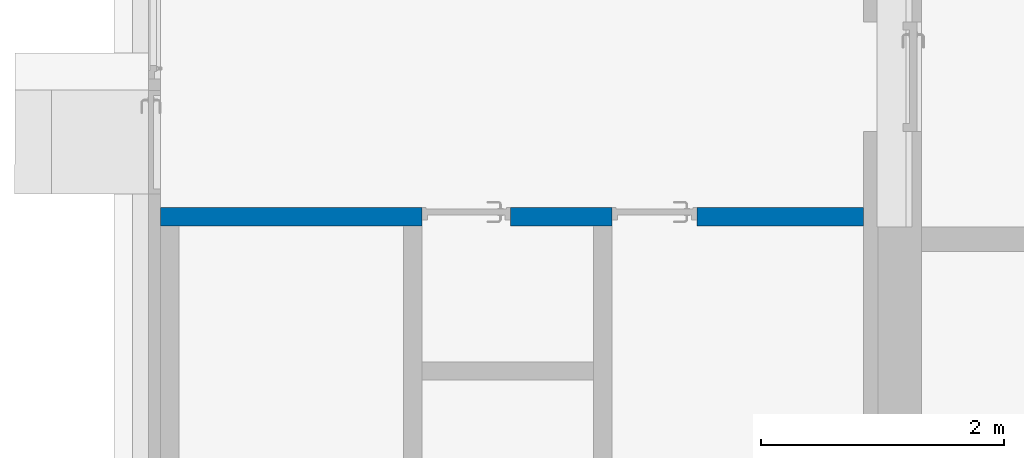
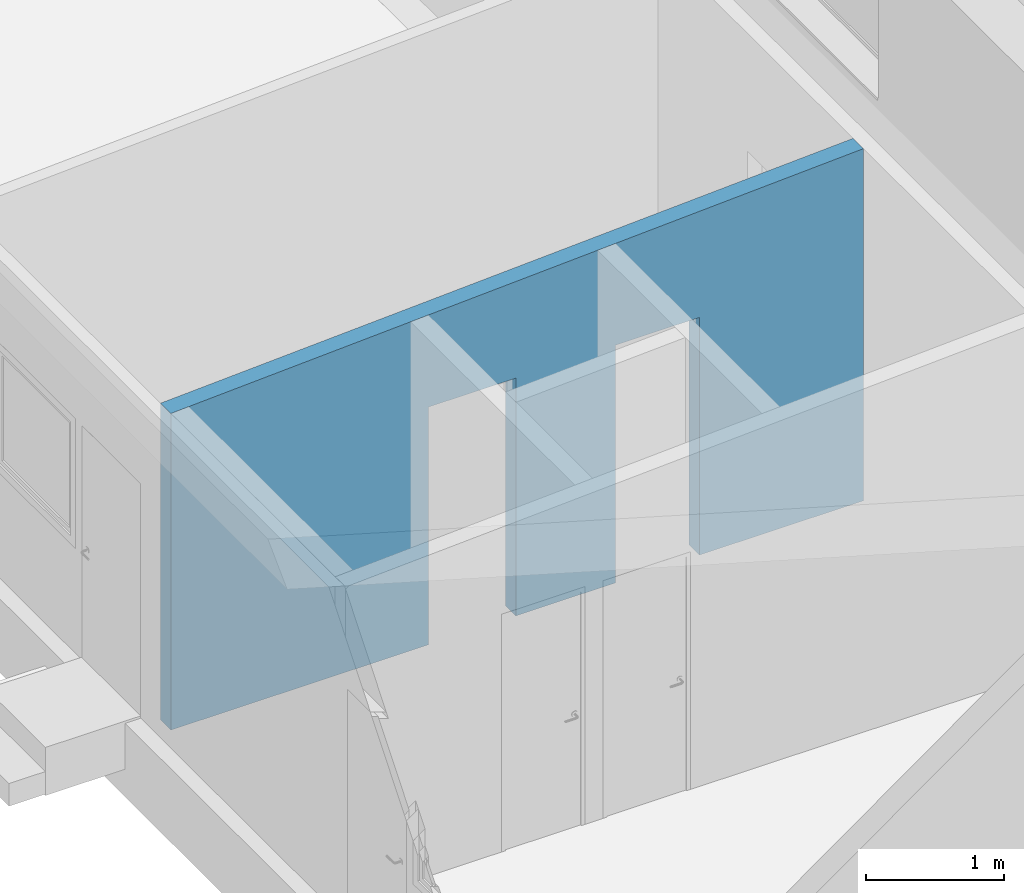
# One storey, part 151 of 301: 1 wall, 2 openings.
"""IFC2X3 building model written with IfcOpenShell, lengths in millimetres."""

from ifc_helpers import new_model, entity, si_unit, converted_unit, derived_unit, money_unit, direction, frame, origin_with_axes, place, context, subcontext, project, spatial, faceted_brep, material, type_object, element, save


model = new_model("IFC2X3")

# Units and contexts
model_context = context("Model", 3, precision=0.01, world=origin_with_axes(), true_north=direction((0.0, 1.0)))
body_context = subcontext(model_context, "Body", "Model", "MODEL_VIEW")
ifc_project = project(units=[si_unit("LENGTHUNIT", "METRE", prefix="MILLI"), si_unit("AREAUNIT", "SQUARE_METRE"), si_unit("VOLUMEUNIT", "CUBIC_METRE"), converted_unit("PLANEANGLEUNIT", "DEGREE", entity("IfcPlaneAngleMeasure", 0.0174532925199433), si_unit("PLANEANGLEUNIT", "RADIAN"), dimensions=[0, 0, 0, 0, 0, 0, 0]), money_unit("EUR"), converted_unit("TIMEUNIT", "Year", entity("IfcTimeMeasure", 31557600.0), si_unit("TIMEUNIT", "SECOND"), dimensions=[0, 0, 1, 0, 0, 0, 0]), si_unit("MASSUNIT", "GRAM", prefix="KILO"), si_unit("THERMODYNAMICTEMPERATUREUNIT", "DEGREE_CELSIUS"), si_unit("LUMINOUSINTENSITYUNIT", "LUMEN"), si_unit("ENERGYUNIT", "JOULE", prefix="MEGA"), derived_unit("THERMALCONDUCTANCEUNIT", [(si_unit("POWERUNIT", "WATT"), 1), (si_unit("LENGTHUNIT", "METRE"), -1), (si_unit("THERMODYNAMICTEMPERATUREUNIT", "KELVIN"), -1)]), derived_unit("SPECIFICHEATCAPACITYUNIT", [(si_unit("ENERGYUNIT", "JOULE"), 1), (si_unit("MASSUNIT", "GRAM", prefix="KILO"), -1), (si_unit("THERMODYNAMICTEMPERATUREUNIT", "KELVIN"), -1)]), derived_unit("MASSDENSITYUNIT", [(si_unit("MASSUNIT", "GRAM", prefix="KILO"), 1), (si_unit("VOLUMEUNIT", "CUBIC_METRE"), -1)])], contexts=[model_context])

# Site, building, storey
site_placement = place(None, frame((0.0, 0.0, 8650.0), z_axis=(0.0, 0.0, 1.0), x_axis=(1.0, 0.0, 0.0)))
site = spatial("IfcSite", under=ifc_project, at=site_placement, Name="43301:001:0844", CompositionType="ELEMENT")
building_placement = place(site_placement, origin_with_axes())
building = spatial("IfcBuilding", under=site, at=building_placement, Name="Kuressaare Ametikooli tuulikute mehaanikute õppekorpus", CompositionType="ELEMENT")
storey_placement = place(building_placement, origin_with_axes())
storey = spatial("IfcBuildingStorey", under=building, at=storey_placement, Name="1.korrus", CompositionType="ELEMENT", Elevation=0.0)

# Wall, openings
ifc_material = material(Name="GENEERILINE - KONSTRUKTRIOON")
wall_type = type_object("IfcWallType", Name="GENEERILINE - KONSTRUKTRIOON 150", PredefinedType="NOTDEFINED")
wall_placement = place(storey_placement, frame((87898.75644683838, 94564.79733641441, -330.0), z_axis=(0.0, 0.0, 1.0), x_axis=(-1.0, 0.0, 0.0)))
wall = element("IfcWall", 1, at=wall_placement, inside=storey, type_object=wall_type, material=ifc_material, context=body_context, shape_type="Brep", body=[
    faceted_brep([(5906.677814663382, 0.0, 2797.657006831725), (120.0000000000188, 0.0, 3111.048801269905), (120.0000000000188, 0.0, 0.0), (1490.923633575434, 0.0, 0.0), (1490.923633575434, 0.0, 2100.0), (2190.923633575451, 0.0, 2100.0), (2190.923633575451, 0.0, 0.0), (3024.812150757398, 0.0, 0.0), (3024.812150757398, 0.0, 2100.0), (3754.812150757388, 0.0, 2100.0), (3754.812150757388, 0.0, 0.0), (5906.677814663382, 0.0, 0.0), (120.0000000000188, 150.0000000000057, 3111.010553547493), (5906.678963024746, 150.0000000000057, 2797.618696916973), (120.0000000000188, 150.0000000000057, 0.0), (1490.923633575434, 150.0000000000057, 0.0), (1490.923633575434, 149.9999999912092, 2100.0), (2190.923633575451, 149.9999999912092, 2100.0), (2190.923633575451, 150.0000000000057, 0.0), (3024.812150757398, 150.0000000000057, 0.0), (3024.812150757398, 149.9999999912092, 2100.0), (3754.812150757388, 149.9999999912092, 2100.0), (3754.812150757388, 150.0000000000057, 0.0), (5906.678963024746, 150.0000000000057, 0.0)], [[[0, 1, 2, 3, 4, 5, 6, 7, 8, 9, 10, 11]], [[12, 1, 0, 13]], [[1, 12, 14, 2]], [[2, 14, 15, 3]], [[15, 16, 4, 3]], [[16, 17, 5, 4]], [[17, 18, 6, 5]], [[19, 7, 6, 18]], [[20, 8, 7, 19]], [[21, 9, 8, 20]], [[22, 10, 9, 21]], [[11, 10, 22, 23]], [[13, 0, 11, 23]], [[12, 13, 23, 22, 21, 20, 19, 18, 17, 16, 15, 14]]]),
])
opening_1_placement = place(wall_placement, frame((3389.812150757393, 0.0, 0.0), z_axis=(0.0, 0.0, 1.0), x_axis=(1.0, 0.0, 0.0)))
element("IfcOpeningElement", 2, at=opening_1_placement, cuts=wall, Name="SU-XX", context=body_context, shape_type="Brep", body=[
    faceted_brep([(364.9999999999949, 151.0000000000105, 2100.0), (364.9999999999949, 151.0000000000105, 0.0), (-364.9999999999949, 151.0000000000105, 0.0), (-364.9999999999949, 151.0000000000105, 2100.0), (364.9999999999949, -1.000000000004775, 2100.0), (364.9999999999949, -1.000000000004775, 0.0), (-364.9999999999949, -1.000000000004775, 0.0), (-364.9999999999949, -1.000000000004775, 2100.0)], [[[0, 1, 2, 3]], [[4, 5, 1, 0]], [[5, 6, 2, 1]], [[6, 7, 3, 2]], [[7, 4, 0, 3]], [[6, 5, 4, 7]]]),
])
opening_2_placement = place(wall_placement, frame((1840.923633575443, 0.0, 0.0), z_axis=(0.0, 0.0, 1.0), x_axis=(1.0, 0.0, 0.0)))
element("IfcOpeningElement", 3, at=opening_2_placement, cuts=wall, Name="SU-XX", context=body_context, shape_type="Brep", body=[
    faceted_brep([(350.0000000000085, 151.0000000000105, 2100.0), (350.0000000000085, 151.0000000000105, 0.0), (-350.0000000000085, 151.0000000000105, 0.0), (-350.0000000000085, 151.0000000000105, 2100.0), (350.0000000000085, -1.000000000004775, 2100.0), (350.0000000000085, -1.000000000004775, 0.0), (-350.0000000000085, -1.000000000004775, 0.0), (-350.0000000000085, -1.000000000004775, 2100.0)], [[[0, 1, 2, 3]], [[4, 5, 1, 0]], [[5, 6, 2, 1]], [[6, 7, 3, 2]], [[7, 4, 0, 3]], [[6, 5, 4, 7]]]),
])

save(model, "model.ifc")
